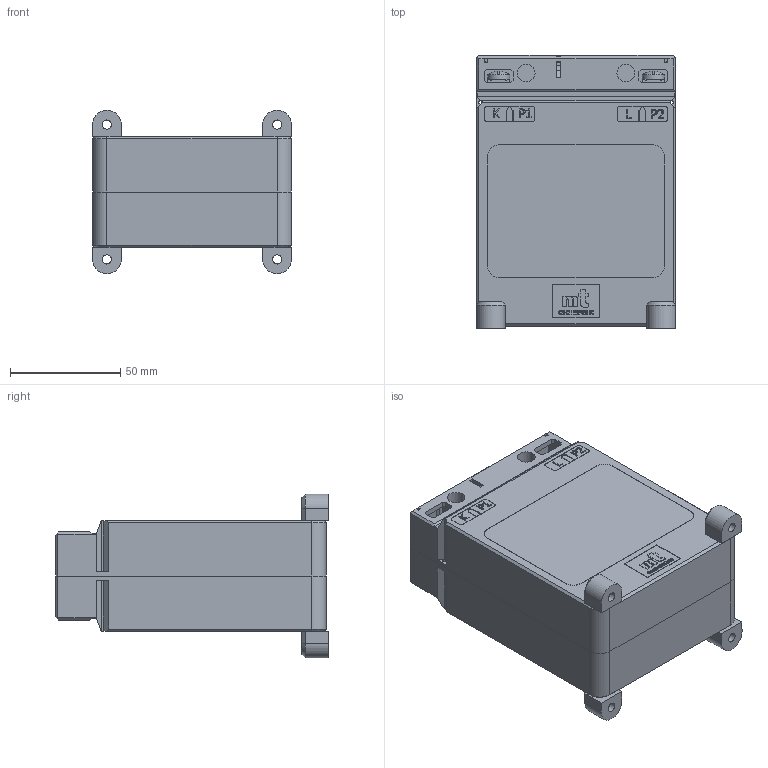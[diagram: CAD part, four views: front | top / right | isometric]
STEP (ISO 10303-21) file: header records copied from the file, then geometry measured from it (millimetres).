
FILE_DESCRIPTION(/* description */ (''),/* implementation_level */ '2;1');
FILE_NAME(/* name */ 'CLB 0.92 test.step',/* time_stamp */ '2024-10-16T21:08:29+02:00',/* author */ (''),/* organization */ (''),/* preprocessor_version */ 'ST-DEVELOPER v20',/* originating_system */ 'Autodesk Translation Framework v13.20.0.188',/* authorisation */ '');
FILE_SCHEMA (('AUTOMOTIVE_DESIGN { 1 0 10303 214 3 1 1 }'));
Length unit declared in the file: millimetre
Products named in the file (15): Current transformer CLB 0.92; Front plastic case CLB 0.92; Back plastic case CLB 0.92; Tape label CLB 0.92; Secondary terminal cover 37B CLB; Current transformer CLB 0.91; Current transformer CLB 0.91_1; Secondary terminal 12 CLB; Current transformer CLB 0.91_2; Secondary terminal 12 CLB_1; Plastic mounting foot; Current transformer CLB 0.91_3; Plastic barrier; Rivet 20; Screw M5x8
Assembly tree (27 placements, depth 3):
  Current transformer CLB 0.92
    Front plastic case CLB 0.92
    Back plastic case CLB 0.92
    Tape label CLB 0.92
    Secondary terminal cover 37B CLB  x2
    Current transformer CLB 0.91
      Secondary terminal 12 CLB
    Current transformer CLB 0.91_1
      Secondary terminal 12 CLB
    Current transformer CLB 0.91_2  x2
      Secondary terminal 12 CLB_1
    Plastic mounting foot  x4
    Current transformer CLB 0.91_3  x2
      Plastic barrier
    Rivet 20  x4
    Screw M5x8  x4
Bounding box: 90 x 123.5 x 74 mm (x, y, z)
Volume: 514966 mm3; surface area: 87379.3 mm2
Topology: 23 solids, 27 shells, 1649 faces, 4442 edges, 2928 vertices
Faces by surface type: plane 1051, bspline 338, cylinder 208, cone 36, torus 8, sphere 8
Full cylindrical faces by diameter (mm): 1.5 x4, 2.4 x4, 2.5 x4, 2.95 x2, 3 x4, 4 x4, 4.1 x4, 4.134 x4, 4.2 x4, 4.5 x4, 5 x8, 8 x16, 9 x4, 10 x4
Entity records: 44020 total; most frequent: CARTESIAN_POINT 11838, ORIENTED_EDGE 7244, DIRECTION 5255, EDGE_CURVE 3622, LINE 2637, VECTOR 2637, VERTEX_POINT 2394, EDGE_LOOP 1452
